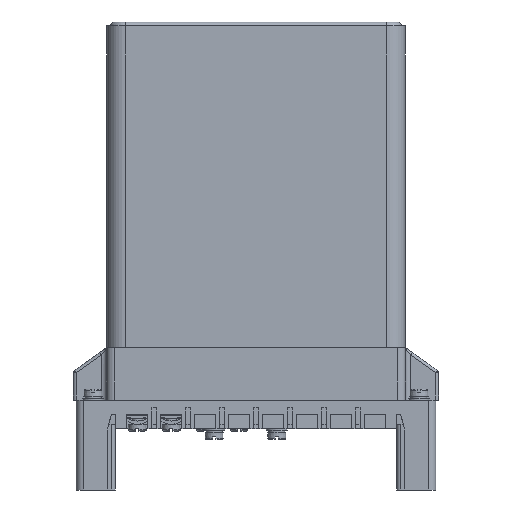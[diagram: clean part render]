
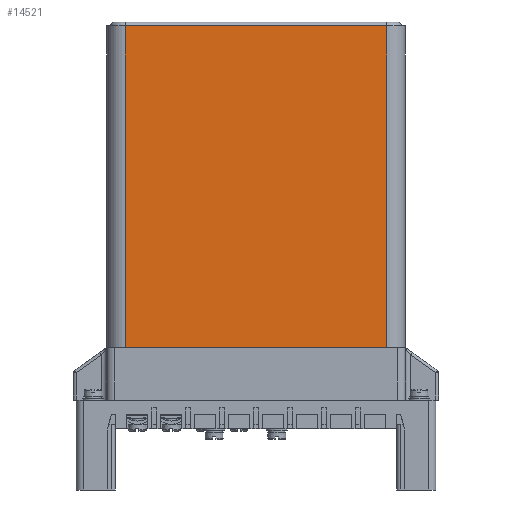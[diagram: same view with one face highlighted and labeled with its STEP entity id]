
A CAD part, left-side view. The second image highlights one B-rep face of the part: STEP entity #14521.
In plain terms, the highlighted planar face has unit normal (-1, 0, 0).
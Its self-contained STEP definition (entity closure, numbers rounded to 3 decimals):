
#14521=ADVANCED_FACE('',(#45815),#45817,.T.);
#45815=FACE_BOUND('',#45816,.T.);
#45816=EDGE_LOOP('',(#70411,#70412,#70413,#70414));
#45817=PLANE('',#45818);
#45818=AXIS2_PLACEMENT_3D('',#45819,#45820,#45821);
#45819=CARTESIAN_POINT('',(-32.15,50.15,31.5));
#45820=DIRECTION('',(-1.,0.,0.));
#45821=DIRECTION('',(0.,-1.,0.));
#70411=ORIENTED_EDGE('',*,*,#83683,.T.);
#70412=ORIENTED_EDGE('',*,*,#84214,.T.);
#70413=ORIENTED_EDGE('',*,*,#84215,.F.);
#70414=ORIENTED_EDGE('',*,*,#84216,.F.);
#83683=EDGE_CURVE('',#95695,#95693,#95696,.T.);
#84214=EDGE_CURVE('',#95693,#96588,#96590,.T.);
#84215=EDGE_CURVE('',#96591,#96588,#96592,.T.);
#84216=EDGE_CURVE('',#95695,#96591,#96593,.T.);
#95693=VERTEX_POINT('',#120474);
#95695=VERTEX_POINT('',#120479);
#95696=LINE('',#120480,#120481);
#96588=VERTEX_POINT('',#123165);
#96590=LINE('',#123170,#123171);
#96591=VERTEX_POINT('',#123173);
#96592=LINE('',#123174,#123175);
#96593=LINE('',#123177,#123178);
#120474=CARTESIAN_POINT('',(-32.15,-50.15,31.5));
#120479=CARTESIAN_POINT('',(-32.15,50.15,31.5));
#120480=CARTESIAN_POINT('',(-32.15,50.15,31.5));
#120481=VECTOR('',#120482,1.);
#120482=DIRECTION('',(0.,-1.,0.));
#123165=CARTESIAN_POINT('',(-32.15,-50.15,155.));
#123170=CARTESIAN_POINT('',(-32.15,-50.15,31.5));
#123171=VECTOR('',#123172,1.);
#123172=DIRECTION('',(0.,0.,1.));
#123173=CARTESIAN_POINT('',(-32.15,50.15,155.));
#123174=CARTESIAN_POINT('',(-32.15,50.15,155.));
#123175=VECTOR('',#123176,1.);
#123176=DIRECTION('',(0.,-1.,0.));
#123177=CARTESIAN_POINT('',(-32.15,50.15,31.5));
#123178=VECTOR('',#123179,1.);
#123179=DIRECTION('',(0.,0.,1.));
